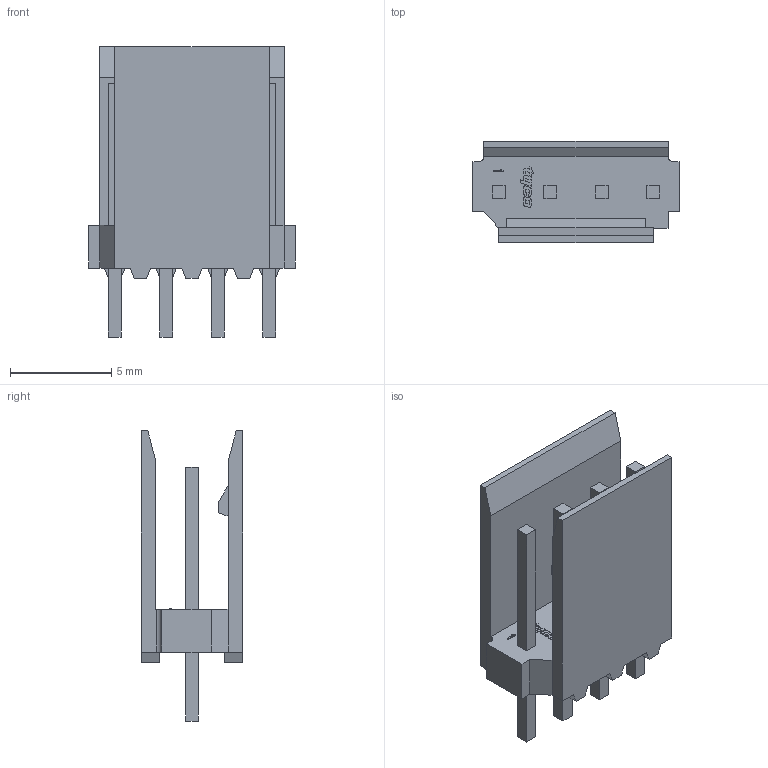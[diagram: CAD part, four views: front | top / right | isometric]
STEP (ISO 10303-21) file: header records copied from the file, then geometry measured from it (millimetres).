
FILE_DESCRIPTION(('STEP AP242'),'1');
FILE_NAME('1205984_281695-4.stp','2020-03-06T13:54:22',('TraceParts'),('TraceParts S.A.'),'Spatial InterOp 3D',' ',' ');
FILE_SCHEMA(('AP242_MANAGED_MODEL_BASED_3D_ENGINEERING_MIM_LF {1 0 10303 442 1 1 4}'));
Length unit declared in the file: millimetre
Products named in the file (1): 1205984_281695-4
Bounding box: 10.16 x 5 x 14.3 mm (x, y, z)
Volume: 222 mm3; surface area: 587.6 mm2
Topology: 1 solids, 1 shells, 193 faces, 526 edges, 350 vertices
Faces by surface type: plane 153, cylinder 40
Entity records: 6059 total; most frequent: CARTESIAN_POINT 1070, ORIENTED_EDGE 1052, DIRECTION 994, EDGE_CURVE 526, LINE 446, VECTOR 446, VERTEX_POINT 350, AXIS2_PLACEMENT_3D 274
